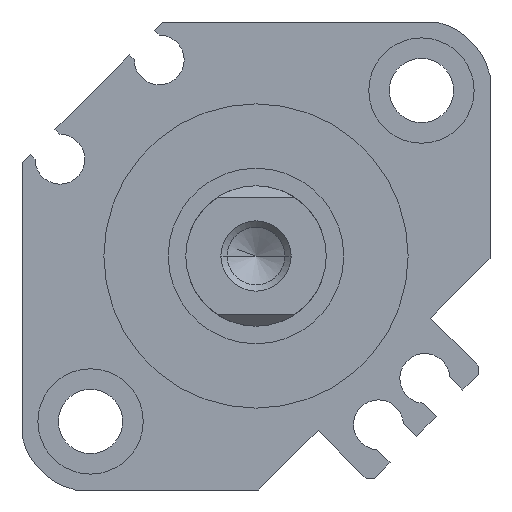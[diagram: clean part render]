
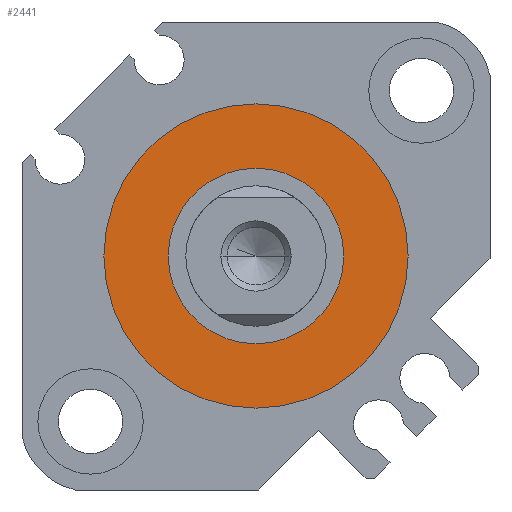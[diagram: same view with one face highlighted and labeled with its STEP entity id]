
A CAD part, left-side view. The second image highlights one B-rep face of the part: STEP entity #2441.
In plain terms, the highlighted planar face has unit normal (-1, 0, 0).
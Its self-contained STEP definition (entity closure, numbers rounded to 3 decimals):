
#71 = VERTEX_POINT ( 'NONE', #3308 ) ;
#114 = CIRCLE ( 'NONE', #2321, 7.5 ) ;
#209 = CARTESIAN_POINT ( 'NONE',  ( 1.9, 0., 0. ) ) ;
#217 = EDGE_CURVE ( 'NONE', #346, #2473, #114, .T. ) ;
#330 = EDGE_CURVE ( 'NONE', #1568, #71, #1959, .T. ) ;
#345 = EDGE_LOOP ( 'NONE', ( #2491, #1679 ) ) ;
#346 = VERTEX_POINT ( 'NONE', #1091 ) ;
#366 = AXIS2_PLACEMENT_3D ( 'NONE', #737, #1724, #2778 ) ;
#509 = CARTESIAN_POINT ( 'NONE',  ( 1.9, 0., 7.5 ) ) ;
#680 = CARTESIAN_POINT ( 'NONE',  ( 1.9, 0., 0. ) ) ;
#725 = ORIENTED_EDGE ( 'NONE', *, *, #217, .T. ) ;
#737 = CARTESIAN_POINT ( 'NONE',  ( 1.9, 0., 0. ) ) ;
#759 = EDGE_LOOP ( 'NONE', ( #1385, #725 ) ) ;
#794 = EDGE_CURVE ( 'NONE', #71, #1568, #2429, .T. ) ;
#1091 = CARTESIAN_POINT ( 'NONE',  ( 1.9, 0., -7.5 ) ) ;
#1207 = CARTESIAN_POINT ( 'NONE',  ( 1.9, 0., 0. ) ) ;
#1343 = CARTESIAN_POINT ( 'NONE',  ( 1.9, 0., 0. ) ) ;
#1354 = CARTESIAN_POINT ( 'NONE',  ( 1.9, 0., -13. ) ) ;
#1385 = ORIENTED_EDGE ( 'NONE', *, *, #2414, .T. ) ;
#1450 = DIRECTION ( 'NONE',  ( 0., 0., -1. ) ) ;
#1568 = VERTEX_POINT ( 'NONE', #1354 ) ;
#1624 = DIRECTION ( 'NONE',  ( 1., 0., 0. ) ) ;
#1679 = ORIENTED_EDGE ( 'NONE', *, *, #330, .F. ) ;
#1724 = DIRECTION ( 'NONE',  ( 1., 0., 0. ) ) ;
#1820 = AXIS2_PLACEMENT_3D ( 'NONE', #680, #2768, #1450 ) ;
#1872 = AXIS2_PLACEMENT_3D ( 'NONE', #1343, #1624, #2402 ) ;
#1959 = CIRCLE ( 'NONE', #1872, 13. ) ;
#2050 = FACE_BOUND ( 'NONE', #759, .T. ) ;
#2243 = DIRECTION ( 'NONE',  ( 0., 0., -1. ) ) ;
#2318 = DIRECTION ( 'NONE',  ( 1., 0., 0. ) ) ;
#2321 = AXIS2_PLACEMENT_3D ( 'NONE', #209, #2318, #2889 ) ;
#2402 = DIRECTION ( 'NONE',  ( 0., 0., -1. ) ) ;
#2414 = EDGE_CURVE ( 'NONE', #2473, #346, #3014, .T. ) ;
#2429 = CIRCLE ( 'NONE', #1820, 13. ) ;
#2441 = ADVANCED_FACE ( 'NONE', ( #3040, #2050 ), #3104, .F. ) ;
#2473 = VERTEX_POINT ( 'NONE', #509 ) ;
#2491 = ORIENTED_EDGE ( 'NONE', *, *, #794, .F. ) ;
#2768 = DIRECTION ( 'NONE',  ( 1., 0., 0. ) ) ;
#2778 = DIRECTION ( 'NONE',  ( 0., 1., 0. ) ) ;
#2889 = DIRECTION ( 'NONE',  ( 0., 0., -1. ) ) ;
#3014 = CIRCLE ( 'NONE', #3064, 7.5 ) ;
#3040 = FACE_OUTER_BOUND ( 'NONE', #345, .T. ) ;
#3064 = AXIS2_PLACEMENT_3D ( 'NONE', #1207, #3365, #2243 ) ;
#3104 = PLANE ( 'NONE',  #366 ) ;
#3308 = CARTESIAN_POINT ( 'NONE',  ( 1.9, 0., 13. ) ) ;
#3365 = DIRECTION ( 'NONE',  ( 1., 0., 0. ) ) ;
